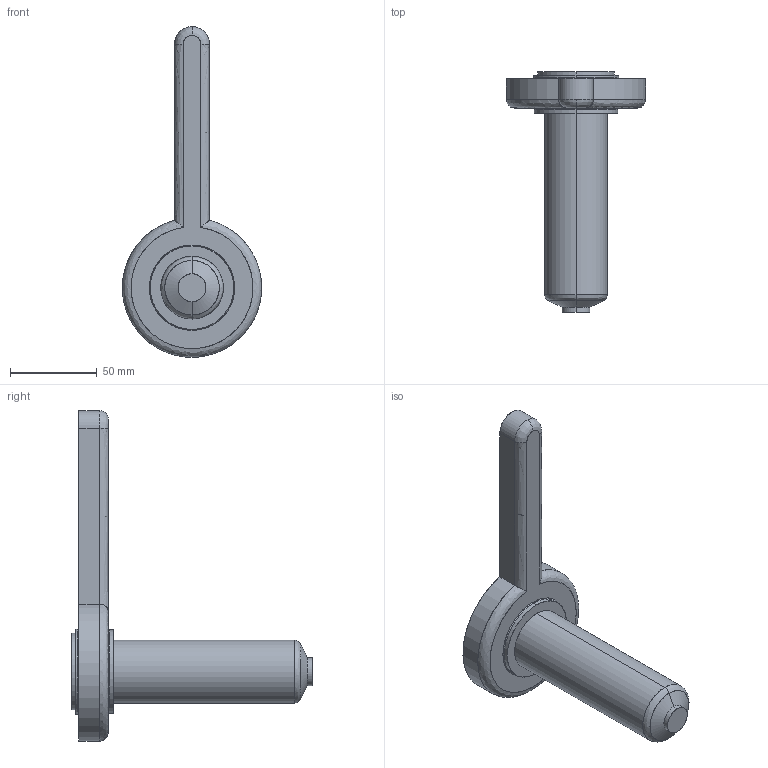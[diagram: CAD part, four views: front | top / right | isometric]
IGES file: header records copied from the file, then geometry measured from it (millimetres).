
Start section: SolidWorks IGES file using analytic representation for surfaces
Global section: file name: C:\Documents and Settings\ws-20\Desktop\TEMPORANEA\Sede UGBE5003-S-A C-114 L-136 P-0.IGS; native system: SolidWorks 2012; preprocessor: SolidWorks 2012; author: ws-20; date: 120307.090648; units: millimetre
Bounding box: 79.97 x 138.29 x 190 mm (x, y, z)
Surface area: 34460.2 mm2 (no closed solid volume)
Topology: 0 solids, 0 shells, 34 faces, 788 edges, 788 vertices
Faces by surface type: revolution 21, bspline 13
